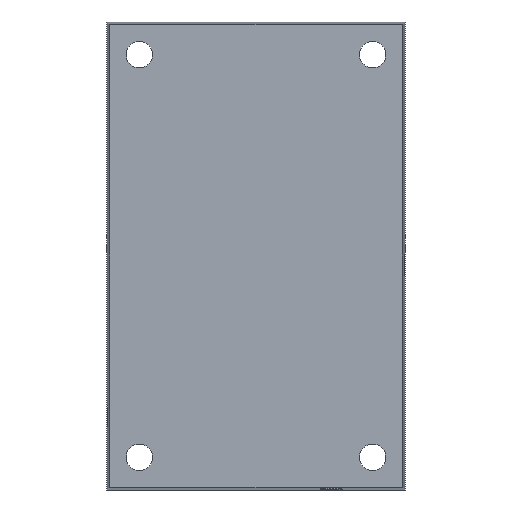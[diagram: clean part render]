
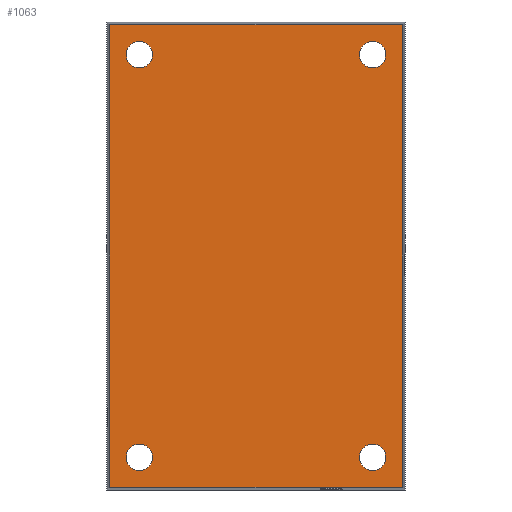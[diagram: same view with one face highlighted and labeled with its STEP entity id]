
A CAD part, front view. The second image highlights one B-rep face of the part: STEP entity #1063.
In plain terms, the highlighted planar face has unit normal (0, -1, 0).
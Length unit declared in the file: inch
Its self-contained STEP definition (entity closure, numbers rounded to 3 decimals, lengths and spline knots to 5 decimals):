
#48 = CARTESIAN_POINT ( 'NONE',  ( -0.6875, -1., -1.1875 ) ) ;
#63 = ORIENTED_EDGE ( 'NONE', *, *, #4942, .F. ) ;
#329 = DIRECTION ( 'NONE',  ( 0., 1., 0. ) ) ;
#394 = EDGE_CURVE ( 'NONE', #5430, #13972, #3459, .T. ) ;
#451 = VERTEX_POINT ( 'NONE', #11888 ) ;
#545 = AXIS2_PLACEMENT_3D ( 'NONE', #3534, #11877, #4746 ) ;
#619 = FACE_BOUND ( 'NONE', #2148, .T. ) ;
#706 = CARTESIAN_POINT ( 'NONE',  ( 0.6875, -1., 1.2655 ) ) ;
#957 = EDGE_CURVE ( 'NONE', #451, #7678, #11311, .T. ) ;
#983 = EDGE_CURVE ( 'NONE', #4933, #15348, #7826, .T. ) ;
#1063 = ADVANCED_FACE ( 'NONE', ( #619, #9868, #3826, #6673, #3446 ), #12867, .F. ) ;
#1153 = DIRECTION ( 'NONE',  ( 0., 0., 1. ) ) ;
#1243 = DIRECTION ( 'NONE',  ( 0., 0., 1. ) ) ;
#1267 = EDGE_LOOP ( 'NONE', ( #10070, #14403 ) ) ;
#1313 = CARTESIAN_POINT ( 'NONE',  ( 0.86354, -1., -1.36254 ) ) ;
#1360 = DIRECTION ( 'NONE',  ( 0., 0., -1. ) ) ;
#1496 = CARTESIAN_POINT ( 'NONE',  ( -0.6875, -1., 1.1875 ) ) ;
#2083 = CIRCLE ( 'NONE', #8355, 0.078 ) ;
#2148 = EDGE_LOOP ( 'NONE', ( #9196, #6331 ) ) ;
#2210 = EDGE_CURVE ( 'NONE', #10591, #12004, #2083, .T. ) ;
#2279 = CARTESIAN_POINT ( 'NONE',  ( -0.86354, -1., -1.36254 ) ) ;
#2634 = VECTOR ( 'NONE', #9805, 39.37008 ) ;
#2718 = DIRECTION ( 'NONE',  ( 0., 0., 1. ) ) ;
#3032 = LINE ( 'NONE', #9661, #2634 ) ;
#3041 = EDGE_CURVE ( 'NONE', #12192, #13878, #3032, .T. ) ;
#3135 = DIRECTION ( 'NONE',  ( 0., 1., 0. ) ) ;
#3342 = ORIENTED_EDGE ( 'NONE', *, *, #5263, .T. ) ;
#3346 = CARTESIAN_POINT ( 'NONE',  ( -0.86354, -1., 1.36254 ) ) ;
#3446 = FACE_OUTER_BOUND ( 'NONE', #13184, .T. ) ;
#3459 = CIRCLE ( 'NONE', #14588, 0.078 ) ;
#3525 = EDGE_CURVE ( 'NONE', #7678, #451, #3771, .T. ) ;
#3534 = CARTESIAN_POINT ( 'NONE',  ( 0.6875, -1., 1.1875 ) ) ;
#3682 = VECTOR ( 'NONE', #15242, 39.37008 ) ;
#3771 = CIRCLE ( 'NONE', #10741, 0.078 ) ;
#3826 = FACE_BOUND ( 'NONE', #8624, .T. ) ;
#4152 = CIRCLE ( 'NONE', #5725, 0.078 ) ;
#4746 = DIRECTION ( 'NONE',  ( 0., 0., 1. ) ) ;
#4747 = EDGE_CURVE ( 'NONE', #6950, #12192, #10094, .T. ) ;
#4870 = CARTESIAN_POINT ( 'NONE',  ( 0.86354, -1., 0. ) ) ;
#4933 = VERTEX_POINT ( 'NONE', #14796 ) ;
#4942 = EDGE_CURVE ( 'NONE', #13699, #6950, #4989, .T. ) ;
#4989 = LINE ( 'NONE', #13687, #8238 ) ;
#5263 = EDGE_CURVE ( 'NONE', #15348, #4933, #11162, .T. ) ;
#5430 = VERTEX_POINT ( 'NONE', #11856 ) ;
#5592 = ORIENTED_EDGE ( 'NONE', *, *, #3041, .F. ) ;
#5600 = ORIENTED_EDGE ( 'NONE', *, *, #394, .T. ) ;
#5697 = CARTESIAN_POINT ( 'NONE',  ( 0.6875, -1., -1.1875 ) ) ;
#5725 = AXIS2_PLACEMENT_3D ( 'NONE', #10339, #3135, #11484 ) ;
#5843 = AXIS2_PLACEMENT_3D ( 'NONE', #7589, #329, #8815 ) ;
#6331 = ORIENTED_EDGE ( 'NONE', *, *, #957, .T. ) ;
#6627 = DIRECTION ( 'NONE',  ( -1., 0., 0. ) ) ;
#6673 = FACE_BOUND ( 'NONE', #1267, .T. ) ;
#6855 = AXIS2_PLACEMENT_3D ( 'NONE', #5697, #13951, #6911 ) ;
#6911 = DIRECTION ( 'NONE',  ( 0., 0., 1. ) ) ;
#6919 = ORIENTED_EDGE ( 'NONE', *, *, #4747, .F. ) ;
#6950 = VERTEX_POINT ( 'NONE', #2279 ) ;
#7195 = CARTESIAN_POINT ( 'NONE',  ( 0.6875, -1., -1.1875 ) ) ;
#7266 = EDGE_CURVE ( 'NONE', #13972, #5430, #14164, .T. ) ;
#7589 = CARTESIAN_POINT ( 'NONE',  ( -0.6875, -1., 1.1875 ) ) ;
#7674 = EDGE_CURVE ( 'NONE', #12004, #10591, #4152, .T. ) ;
#7678 = VERTEX_POINT ( 'NONE', #706 ) ;
#7736 = LINE ( 'NONE', #4870, #10503 ) ;
#7795 = CARTESIAN_POINT ( 'NONE',  ( -0.6875, -1., -1.1095 ) ) ;
#7826 = CIRCLE ( 'NONE', #14726, 0.078 ) ;
#7875 = CARTESIAN_POINT ( 'NONE',  ( 0.6875, -1., -1.1095 ) ) ;
#8201 = DIRECTION ( 'NONE',  ( 0., 0., 1. ) ) ;
#8238 = VECTOR ( 'NONE', #6627, 39.37008 ) ;
#8355 = AXIS2_PLACEMENT_3D ( 'NONE', #48, #8528, #1243 ) ;
#8423 = DIRECTION ( 'NONE',  ( 0., 0., 1. ) ) ;
#8447 = DIRECTION ( 'NONE',  ( 0., 1., 0. ) ) ;
#8528 = DIRECTION ( 'NONE',  ( 0., 1., 0. ) ) ;
#8624 = EDGE_LOOP ( 'NONE', ( #3342, #10200 ) ) ;
#8815 = DIRECTION ( 'NONE',  ( 0., 0., 1. ) ) ;
#9196 = ORIENTED_EDGE ( 'NONE', *, *, #3525, .T. ) ;
#9661 = CARTESIAN_POINT ( 'NONE',  ( 0., -1., 1.36254 ) ) ;
#9805 = DIRECTION ( 'NONE',  ( 1., 0., 0. ) ) ;
#9868 = FACE_BOUND ( 'NONE', #10462, .T. ) ;
#9946 = DIRECTION ( 'NONE',  ( 0., 1., 0. ) ) ;
#10070 = ORIENTED_EDGE ( 'NONE', *, *, #2210, .T. ) ;
#10094 = LINE ( 'NONE', #14246, #3682 ) ;
#10200 = ORIENTED_EDGE ( 'NONE', *, *, #983, .T. ) ;
#10252 = EDGE_CURVE ( 'NONE', #13878, #13699, #7736, .T. ) ;
#10339 = CARTESIAN_POINT ( 'NONE',  ( -0.6875, -1., -1.1875 ) ) ;
#10462 = EDGE_LOOP ( 'NONE', ( #14876, #5600 ) ) ;
#10503 = VECTOR ( 'NONE', #1360, 39.37008 ) ;
#10591 = VERTEX_POINT ( 'NONE', #7795 ) ;
#10710 = CARTESIAN_POINT ( 'NONE',  ( -0.6875, -1., -1.2655 ) ) ;
#10741 = AXIS2_PLACEMENT_3D ( 'NONE', #15391, #8447, #1153 ) ;
#11162 = CIRCLE ( 'NONE', #6855, 0.078 ) ;
#11311 = CIRCLE ( 'NONE', #545, 0.078 ) ;
#11484 = DIRECTION ( 'NONE',  ( 0., 0., 1. ) ) ;
#11778 = CARTESIAN_POINT ( 'NONE',  ( -0.6875, -1., 1.2655 ) ) ;
#11856 = CARTESIAN_POINT ( 'NONE',  ( -0.6875, -1., 1.1095 ) ) ;
#11877 = DIRECTION ( 'NONE',  ( 0., 1., 0. ) ) ;
#11888 = CARTESIAN_POINT ( 'NONE',  ( 0.6875, -1., 1.1095 ) ) ;
#12004 = VERTEX_POINT ( 'NONE', #10710 ) ;
#12192 = VERTEX_POINT ( 'NONE', #3346 ) ;
#12867 = PLANE ( 'NONE',  #14242 ) ;
#13184 = EDGE_LOOP ( 'NONE', ( #14993, #5592, #6919, #63 ) ) ;
#13687 = CARTESIAN_POINT ( 'NONE',  ( 0., -1., -1.36254 ) ) ;
#13699 = VERTEX_POINT ( 'NONE', #1313 ) ;
#13779 = CARTESIAN_POINT ( 'NONE',  ( 0.86354, -1., 1.36254 ) ) ;
#13878 = VERTEX_POINT ( 'NONE', #13779 ) ;
#13951 = DIRECTION ( 'NONE',  ( 0., 1., 0. ) ) ;
#13972 = VERTEX_POINT ( 'NONE', #11778 ) ;
#14007 = CARTESIAN_POINT ( 'NONE',  ( 0., -1., 0. ) ) ;
#14164 = CIRCLE ( 'NONE', #5843, 0.078 ) ;
#14242 = AXIS2_PLACEMENT_3D ( 'NONE', #14007, #15159, #8201 ) ;
#14246 = CARTESIAN_POINT ( 'NONE',  ( -0.86354, -1., 0. ) ) ;
#14403 = ORIENTED_EDGE ( 'NONE', *, *, #7674, .T. ) ;
#14588 = AXIS2_PLACEMENT_3D ( 'NONE', #1496, #9946, #2718 ) ;
#14726 = AXIS2_PLACEMENT_3D ( 'NONE', #7195, #15372, #8423 ) ;
#14796 = CARTESIAN_POINT ( 'NONE',  ( 0.6875, -1., -1.2655 ) ) ;
#14876 = ORIENTED_EDGE ( 'NONE', *, *, #7266, .T. ) ;
#14993 = ORIENTED_EDGE ( 'NONE', *, *, #10252, .F. ) ;
#15159 = DIRECTION ( 'NONE',  ( 0., 1., 0. ) ) ;
#15242 = DIRECTION ( 'NONE',  ( 0., 0., 1. ) ) ;
#15348 = VERTEX_POINT ( 'NONE', #7875 ) ;
#15372 = DIRECTION ( 'NONE',  ( 0., 1., 0. ) ) ;
#15391 = CARTESIAN_POINT ( 'NONE',  ( 0.6875, -1., 1.1875 ) ) ;
